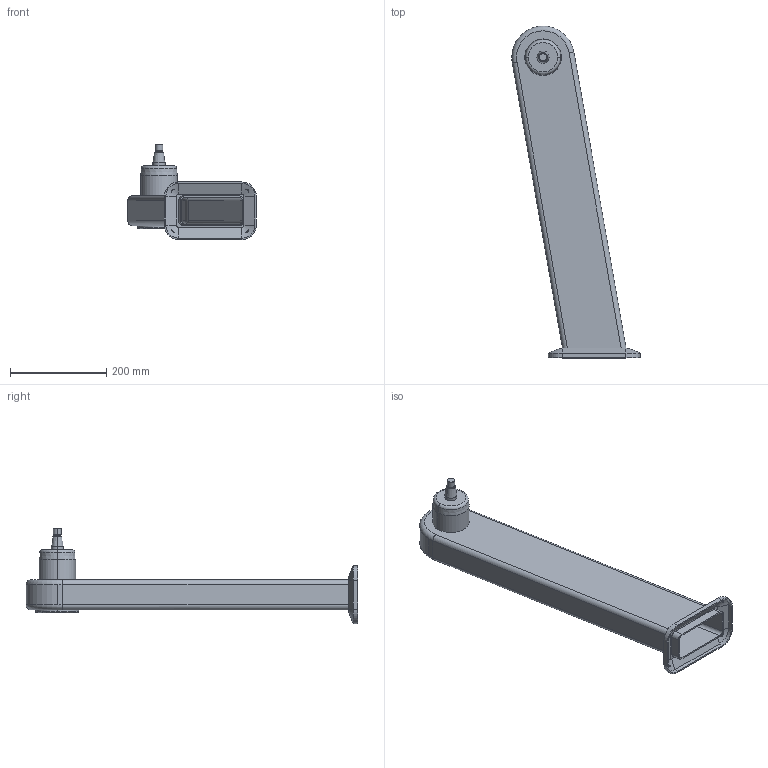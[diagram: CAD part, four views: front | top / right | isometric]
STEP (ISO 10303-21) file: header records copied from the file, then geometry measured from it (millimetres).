
FILE_DESCRIPTION (( 'STEP AP214' ), '1' );
FILE_NAME ('WP710_H625_-10.STEP', '2014-06-27T07:01:49', ( '' ), ( '' ), 'SwSTEP 2.0', 'SolidWorks 2014', '' );
FILE_SCHEMA (( 'AUTOMOTIVE_DESIGN' ));
Length unit declared in the file: millimetre
Products named in the file (1): WP710_H625_-10
Bounding box: 267.18 x 690 x 198 mm (x, y, z)
Volume: 1166029.9 mm3; surface area: 562514.9 mm2
Topology: 1 solids, 1 shells, 112 faces, 250 edges, 152 vertices
Faces by surface type: cylinder 44, plane 40, cone 20, torus 8
Entity records: 3211 total; most frequent: CARTESIAN_POINT 668, DIRECTION 552, ORIENTED_EDGE 500, EDGE_CURVE 250, AXIS2_PLACEMENT_3D 211, VERTEX_POINT 152, VECTOR 130, LINE 130
